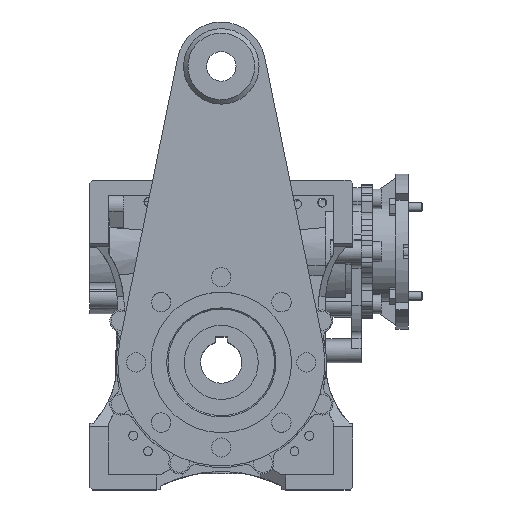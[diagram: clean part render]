
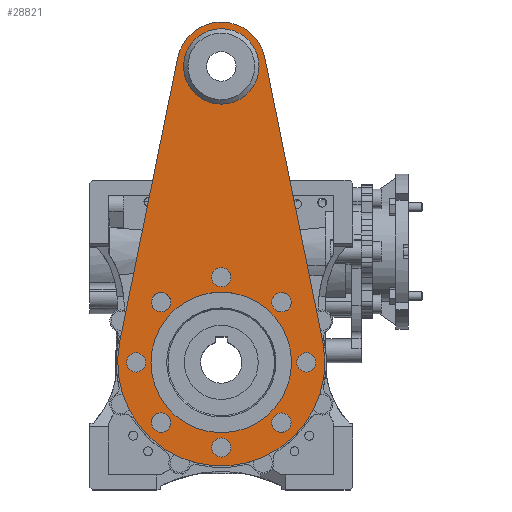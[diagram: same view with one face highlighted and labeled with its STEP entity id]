
A CAD part, top view. The second image highlights one B-rep face of the part: STEP entity #28821.
In plain terms, the highlighted planar face has unit normal (0, 0, 1).
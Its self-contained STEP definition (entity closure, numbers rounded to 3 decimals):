
#1104=PLANE('',#31876);
#3623=LINE('',#49517,#6136);
#3628=LINE('',#49531,#6141);
#6136=VECTOR('',#40419,1000.);
#6141=VECTOR('',#40432,1000.);
#7462=CIRCLE('',#31868,70.);
#7463=CIRCLE('',#31871,47.5);
#7466=CIRCLE('',#31875,30.);
#7467=CIRCLE('',#31877,6.5);
#7468=CIRCLE('',#31878,6.5);
#7469=CIRCLE('',#31879,6.5);
#7470=CIRCLE('',#31880,6.5);
#7471=CIRCLE('',#31881,6.5);
#7472=CIRCLE('',#31882,6.5);
#7473=CIRCLE('',#31883,6.5);
#7474=CIRCLE('',#31884,6.5);
#7475=CIRCLE('',#31885,25.5);
#15667=ORIENTED_EDGE('',*,*,#19818,.T.);
#15668=ORIENTED_EDGE('',*,*,#19819,.T.);
#15669=ORIENTED_EDGE('',*,*,#19820,.T.);
#15670=ORIENTED_EDGE('',*,*,#19821,.T.);
#15671=ORIENTED_EDGE('',*,*,#19822,.T.);
#15672=ORIENTED_EDGE('',*,*,#19823,.T.);
#15673=ORIENTED_EDGE('',*,*,#19824,.T.);
#15674=ORIENTED_EDGE('',*,*,#19825,.T.);
#15675=ORIENTED_EDGE('',*,*,#19826,.T.);
#15676=ORIENTED_EDGE('',*,*,#19814,.F.);
#15677=ORIENTED_EDGE('',*,*,#19806,.T.);
#15678=ORIENTED_EDGE('',*,*,#19810,.T.);
#15679=ORIENTED_EDGE('',*,*,#19813,.T.);
#15680=ORIENTED_EDGE('',*,*,#19817,.T.);
#19806=EDGE_CURVE('',#22617,#22616,#3623,.T.);
#19810=EDGE_CURVE('',#22616,#22619,#7462,.T.);
#19813=EDGE_CURVE('',#22619,#22621,#3628,.T.);
#19814=EDGE_CURVE('',#22622,#22622,#7463,.T.);
#19817=EDGE_CURVE('',#22621,#22617,#7466,.T.);
#19818=EDGE_CURVE('',#22624,#22624,#7467,.F.);
#19819=EDGE_CURVE('',#22625,#22625,#7468,.F.);
#19820=EDGE_CURVE('',#22626,#22626,#7469,.F.);
#19821=EDGE_CURVE('',#22627,#22627,#7470,.F.);
#19822=EDGE_CURVE('',#22628,#22628,#7471,.F.);
#19823=EDGE_CURVE('',#22629,#22629,#7472,.F.);
#19824=EDGE_CURVE('',#22630,#22630,#7473,.F.);
#19825=EDGE_CURVE('',#22631,#22631,#7474,.F.);
#19826=EDGE_CURVE('',#22632,#22632,#7475,.T.);
#22616=VERTEX_POINT('',#49516);
#22617=VERTEX_POINT('',#49518);
#22619=VERTEX_POINT('',#49524);
#22621=VERTEX_POINT('',#49530);
#22622=VERTEX_POINT('',#49534);
#22624=VERTEX_POINT('',#49542);
#22625=VERTEX_POINT('',#49544);
#22626=VERTEX_POINT('',#49546);
#22627=VERTEX_POINT('',#49548);
#22628=VERTEX_POINT('',#49550);
#22629=VERTEX_POINT('',#49552);
#22630=VERTEX_POINT('',#49554);
#22631=VERTEX_POINT('',#49556);
#22632=VERTEX_POINT('',#49558);
#24651=EDGE_LOOP('',(#15667));
#24652=EDGE_LOOP('',(#15668));
#24653=EDGE_LOOP('',(#15669));
#24654=EDGE_LOOP('',(#15670));
#24655=EDGE_LOOP('',(#15671));
#24656=EDGE_LOOP('',(#15672));
#24657=EDGE_LOOP('',(#15673));
#24658=EDGE_LOOP('',(#15674));
#24659=EDGE_LOOP('',(#15675));
#24660=EDGE_LOOP('',(#15676));
#24661=EDGE_LOOP('',(#15677,#15678,#15679,#15680));
#26566=FACE_BOUND('',#24651,.T.);
#26567=FACE_BOUND('',#24652,.T.);
#26568=FACE_BOUND('',#24653,.T.);
#26569=FACE_BOUND('',#24654,.T.);
#26570=FACE_BOUND('',#24655,.T.);
#26571=FACE_BOUND('',#24656,.T.);
#26572=FACE_BOUND('',#24657,.T.);
#26573=FACE_BOUND('',#24658,.T.);
#26574=FACE_BOUND('',#24659,.T.);
#26575=FACE_BOUND('',#24660,.T.);
#26576=FACE_BOUND('',#24661,.T.);
#28821=ADVANCED_FACE('',(#26566,#26567,#26568,#26569,#26570,#26571,#26572,
#26573,#26574,#26575,#26576),#1104,.T.);
#31868=AXIS2_PLACEMENT_3D('',#49525,#40426,#40427);
#31871=AXIS2_PLACEMENT_3D('',#49533,#40435,#40436);
#31875=AXIS2_PLACEMENT_3D('',#49539,#40443,#40444);
#31876=AXIS2_PLACEMENT_3D('',#49540,#40445,#40446);
#31877=AXIS2_PLACEMENT_3D('',#49541,#40447,#40448);
#31878=AXIS2_PLACEMENT_3D('',#49543,#40449,#40450);
#31879=AXIS2_PLACEMENT_3D('',#49545,#40451,#40452);
#31880=AXIS2_PLACEMENT_3D('',#49547,#40453,#40454);
#31881=AXIS2_PLACEMENT_3D('',#49549,#40455,#40456);
#31882=AXIS2_PLACEMENT_3D('',#49551,#40457,#40458);
#31883=AXIS2_PLACEMENT_3D('',#49553,#40459,#40460);
#31884=AXIS2_PLACEMENT_3D('',#49555,#40461,#40462);
#31885=AXIS2_PLACEMENT_3D('',#49557,#40463,#40464);
#40419=DIRECTION('',(0.2,0.98,0.));
#40426=DIRECTION('',(0.,0.,1.));
#40427=DIRECTION('',(1.,0.,0.));
#40432=DIRECTION('',(0.2,-0.98,0.));
#40435=DIRECTION('',(0.,0.,1.));
#40436=DIRECTION('',(1.,0.,0.));
#40443=DIRECTION('',(0.,0.,1.));
#40444=DIRECTION('',(1.,0.,0.));
#40445=DIRECTION('',(0.,0.,1.));
#40446=DIRECTION('',(1.,0.,0.));
#40447=DIRECTION('',(0.,0.,1.));
#40448=DIRECTION('',(1.,0.,0.));
#40449=DIRECTION('',(0.,0.,1.));
#40450=DIRECTION('',(1.,0.,0.));
#40451=DIRECTION('',(0.,0.,1.));
#40452=DIRECTION('',(1.,0.,0.));
#40453=DIRECTION('',(0.,0.,1.));
#40454=DIRECTION('',(1.,0.,0.));
#40455=DIRECTION('',(0.,0.,1.));
#40456=DIRECTION('',(1.,0.,0.));
#40457=DIRECTION('',(0.,0.,1.));
#40458=DIRECTION('',(1.,0.,0.));
#40459=DIRECTION('',(0.,0.,1.));
#40460=DIRECTION('',(1.,0.,0.));
#40461=DIRECTION('',(0.,0.,1.));
#40462=DIRECTION('',(1.,0.,0.));
#40463=DIRECTION('',(0.,0.,-1.));
#40464=DIRECTION('',(-1.,0.,0.));
#49516=CARTESIAN_POINT('',(68.586,-14.,3.));
#49517=CARTESIAN_POINT('',(29.394,-206.,3.));
#49518=CARTESIAN_POINT('',(29.394,-206.,3.));
#49524=CARTESIAN_POINT('',(-68.586,-14.,3.));
#49525=CARTESIAN_POINT('',(0.,0.,3.));
#49530=CARTESIAN_POINT('',(-29.394,-206.,3.));
#49531=CARTESIAN_POINT('',(-68.586,-14.,3.));
#49533=CARTESIAN_POINT('',(0.,0.,3.));
#49534=CARTESIAN_POINT('',(47.5,0.,3.));
#49539=CARTESIAN_POINT('',(0.,-200.,3.));
#49540=CARTESIAN_POINT('',(0.,0.,3.));
#49541=CARTESIAN_POINT('',(-57.5,0.,3.));
#49542=CARTESIAN_POINT('',(-51.,0.,3.));
#49543=CARTESIAN_POINT('',(-40.659,-40.659,3.));
#49544=CARTESIAN_POINT('',(-34.159,-40.659,3.));
#49545=CARTESIAN_POINT('',(0.,-57.5,3.));
#49546=CARTESIAN_POINT('',(6.5,-57.5,3.));
#49547=CARTESIAN_POINT('',(40.659,-40.659,3.));
#49548=CARTESIAN_POINT('',(47.159,-40.659,3.));
#49549=CARTESIAN_POINT('',(57.5,0.,3.));
#49550=CARTESIAN_POINT('',(64.,0.,3.));
#49551=CARTESIAN_POINT('',(40.659,40.659,3.));
#49552=CARTESIAN_POINT('',(47.159,40.659,3.));
#49553=CARTESIAN_POINT('',(-40.659,40.659,3.));
#49554=CARTESIAN_POINT('',(-34.159,40.659,3.));
#49555=CARTESIAN_POINT('',(0.,57.5,3.));
#49556=CARTESIAN_POINT('',(6.5,57.5,3.));
#49557=CARTESIAN_POINT('',(0.,-200.,3.));
#49558=CARTESIAN_POINT('',(-25.5,-200.,3.));
